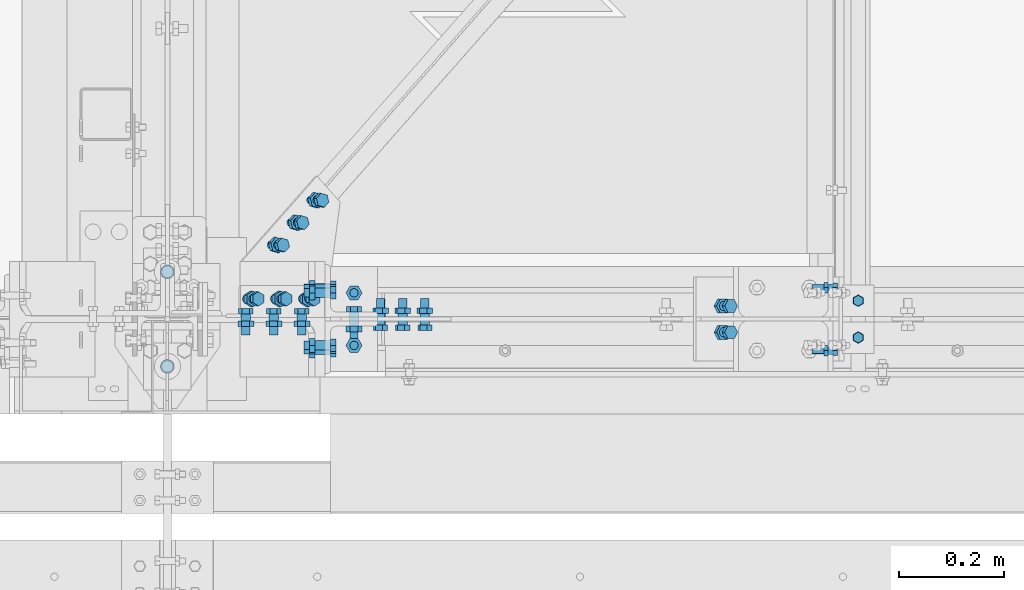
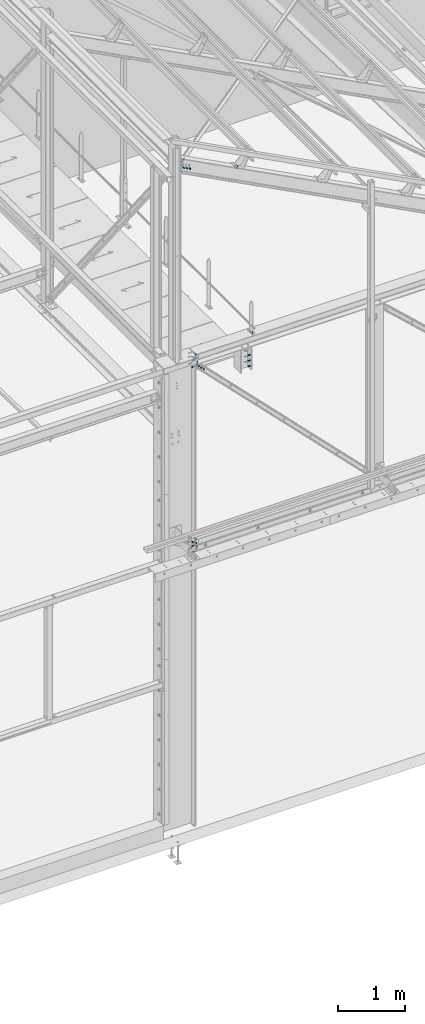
# One storey, part 146 of 362: 18 mechanical fasteners.
"""IFC2X3 building model written with IfcOpenShell, lengths in millimetres."""

from ifc_helpers import new_model, si_unit, frame, origin_with_axes, origin_2d_with_axis, place, context, subcontext, project, spatial, polyline, circle, outline, extrude, source, transform, mapped, material, type_object, element, save


model = new_model("IFC2X3")

# Units and contexts
model_context = context("Model", 3, precision=1e-05, world=origin_with_axes())
body_context = subcontext(model_context, "Body", "Model", "MODEL_VIEW")
ifc_project = project(units=[si_unit("LENGTHUNIT", "METRE", prefix="MILLI"), si_unit("AREAUNIT", "SQUARE_METRE"), si_unit("VOLUMEUNIT", "CUBIC_METRE"), si_unit("MASSUNIT", "GRAM", prefix="KILO"), si_unit("TIMEUNIT", "SECOND"), si_unit("PLANEANGLEUNIT", "RADIAN"), si_unit("SOLIDANGLEUNIT", "STERADIAN"), si_unit("THERMODYNAMICTEMPERATUREUNIT", "DEGREE_CELSIUS"), si_unit("LUMINOUSINTENSITYUNIT", "LUMEN")], contexts=[model_context])

# Site, building, storey
site_placement = place(None, origin_with_axes())
site = spatial("IfcSite", under=ifc_project, at=site_placement, Name="Undefined", CompositionType="ELEMENT")
building_placement = place(site_placement, origin_with_axes())
building = spatial("IfcBuilding", under=site, at=building_placement, Name="Undefined", CompositionType="ELEMENT")
storey_placement = place(building_placement, origin_with_axes())
storey = spatial("IfcBuildingStorey", under=building, at=storey_placement, Name="Undefined", CompositionType="ELEMENT", Elevation=0.0)

# Mechanical fasteners
ifc_material_1 = material(Name="#_SB-8.8-ZINGUE")
mechanical_fastener_type = type_object("IfcMechanicalFastenerType", Name="Bolt assembly")
shared_shape_1 = source(origin_with_axes(), body_context, "Body", "SweptSolid", [
    extrude(circle(Radius=9.0, at=origin_2d_with_axis()), frame((0.0, -5.8999542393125, 0.0), z_axis=(0.0, 1.0, 0.0), x_axis=(1.0, 0.0, 0.0)), (0.0, 0.0, 1.0), 6.0),
    extrude(circle(Radius=9.0, at=origin_2d_with_axis()), frame((0.0, -0.100011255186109, 0.0), z_axis=(0.0, 1.0, 0.0), x_axis=(1.0, 0.0, 0.0)), (0.0, 0.0, 1.0), 6.1),
    extrude(outline(polyline([(13.85640646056, 0.0), (6.92820323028, 12.0000000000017), (-6.92820323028, 12.0000000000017), (-13.85640646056, 0.0), (-6.92820323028, -12.0000000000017), (6.92820323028, -12.0000000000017), (13.85640646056, 0.0)])), frame((0.0, -16.5599735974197, 0.0), z_axis=(0.0, 1.0, 0.0), x_axis=(1.0, 0.0, 0.0)), (0.0, 0.0, 1.0), 10.56),
    extrude(circle(Radius=8.0, at=origin_2d_with_axis()), frame((0.0, -5.9999542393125, 0.0), z_axis=(0.0, 1.0, 0.0), x_axis=(1.0, 0.0, 0.0)), (0.0, 0.0, 1.0), 40.0),
    extrude(outline(polyline([(15.3344231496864, 0.0), (7.6672115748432, 13.2800000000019), (-7.6672115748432, 13.2800000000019), (-15.3344231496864, 0.0), (-7.6672115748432, -13.2800000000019), (7.6672115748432, -13.2800000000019), (15.3344231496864, 0.0)])), frame((0.0, 6.0, 0.0), z_axis=(0.0, 1.0, 0.0), x_axis=(1.0, 0.0, 0.0)), (0.0, 0.0, 1.0), 10.56),
])
mechanical_fastener_1_placement = place(storey_placement, frame((12892.7686208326, 140.990496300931, 11959.887126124), z_axis=(-0.628485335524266, 0.704921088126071, 0.328774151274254), x_axis=(0.624617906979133, 0.7092857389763, -0.326750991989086)))
element("IfcMechanicalFastener", 1, at=mechanical_fastener_1_placement, inside=storey, type_object=mechanical_fastener_type, material=ifc_material_1, Name="Bolt assembly", NominalDiameter=16.0, NominalLength=40.0, context=body_context, shape_type="MappedRepresentation", body=[
    mapped(shared_shape_1, transform((0.0, 0.0, 0.0))),
    mapped(shared_shape_1, transform((60.0, 0.0, 0.0))),
    mapped(shared_shape_1, transform((120.0, 0.0, 0.0))),
])
shared_shape_2 = source(origin_with_axes(), body_context, "Body", "SweptSolid", [
    extrude(circle(Radius=9.0, at=origin_2d_with_axis()), frame((0.0, 0.1, 0.0), z_axis=(0.0, 1.0, 0.0), x_axis=(1.0, 0.0, 0.0)), (0.0, 0.0, 1.0), 6.0),
    extrude(circle(Radius=9.0, at=origin_2d_with_axis()), frame((0.0, 5.90002706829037, 0.0), z_axis=(0.0, 1.0, 0.0), x_axis=(1.0, 0.0, 0.0)), (0.0, 0.0, 1.0), 6.1),
    extrude(outline(polyline([(13.85640646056, 0.0), (6.92820323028, 12.0000000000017), (-6.92820323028, 12.0000000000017), (-13.85640646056, 0.0), (-6.92820323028, -12.0000000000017), (6.92820323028, -12.0000000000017), (13.85640646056, 0.0)])), frame((0.0, -10.5600019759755, 0.0), z_axis=(0.0, 1.0, 0.0), x_axis=(1.0, 0.0, 0.0)), (0.0, 0.0, 1.0), 10.56),
    extrude(circle(Radius=8.0, at=origin_2d_with_axis()), frame((0.0, 0.0, 0.0), z_axis=(0.0, 1.0, 0.0), x_axis=(1.0, 0.0, 0.0)), (0.0, 0.0, 1.0), 40.0),
    extrude(outline(polyline([(15.3344231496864, 0.0), (7.6672115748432, 13.2800000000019), (-7.6672115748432, 13.2800000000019), (-15.3344231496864, 0.0), (-7.6672115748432, -13.2800000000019), (7.6672115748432, -13.2800000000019), (15.3344231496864, 0.0)])), frame((0.0, 12.0000270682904, 0.0), z_axis=(0.0, 1.0, 0.0), x_axis=(1.0, 0.0, 0.0)), (0.0, 0.0, 1.0), 10.56),
])
mechanical_fastener_2_placement = place(storey_placement, frame((12901.5227529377, 38.4999009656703, 11955.3076525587), z_axis=(0.886081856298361, 3.500000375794e-08, -0.463528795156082), x_axis=(0.0, -1.0, 0.0)))
element("IfcMechanicalFastener", 2, at=mechanical_fastener_2_placement, inside=storey, type_object=mechanical_fastener_type, material=ifc_material_1, Name="Bolt assembly", NominalDiameter=16.0, NominalLength=40.0, context=body_context, shape_type="MappedRepresentation", body=[
    mapped(shared_shape_2, transform((0.0, 0.0, -60.0))),
    mapped(shared_shape_2, transform((0.0, 0.0, 0.0))),
    mapped(shared_shape_2, transform((0.0, 0.0, 60.0))),
])
ifc_material_2 = material(Name="8.8-SB-ZINGUE")
shared_shape_3 = source(origin_with_axes(), body_context, "Body", "SweptSolid", [
    extrude(circle(Radius=9.0, at=origin_2d_with_axis()), frame((0.0, -10.9000000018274, 0.0), z_axis=(0.0, 1.0, 0.0), x_axis=(1.0, 0.0, 0.0)), (0.0, 0.0, 1.0), 6.0),
    extrude(circle(Radius=9.0, at=origin_2d_with_axis()), frame((0.0, 4.9000000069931, 0.0), z_axis=(0.0, 1.0, 0.0), x_axis=(1.0, 0.0, 0.0)), (0.0, 0.0, 1.0), 6.1),
    extrude(circle(Radius=9.0, at=origin_2d_with_axis()), frame((0.0, -3.99999923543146, 0.0), z_axis=(0.0, 1.0, 0.0), x_axis=(1.0, 0.0, 0.0)), (0.0, 0.0, 1.0), 8.0),
    extrude(outline(polyline([(13.85640646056, 0.0), (6.92820323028, 12.0000000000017), (-6.92820323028, 12.0000000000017), (-13.85640646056, 0.0), (-6.92820323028, -12.0000000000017), (6.92820323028, -12.0000000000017), (13.85640646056, 0.0)])), frame((0.0, -21.5600000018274, 0.0), z_axis=(0.0, 1.0, 0.0), x_axis=(1.0, 0.0, 0.0)), (0.0, 0.0, 1.0), 10.56),
    extrude(circle(Radius=8.0, at=origin_2d_with_axis()), frame((0.0, -11.0000000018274, 0.0), z_axis=(0.0, 1.0, 0.0), x_axis=(1.0, 0.0, 0.0)), (0.0, 0.0, 1.0), 50.0),
    extrude(outline(polyline([(15.3344231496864, 0.0), (7.6672115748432, 13.2800000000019), (-7.6672115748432, 13.2800000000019), (-15.3344231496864, 0.0), (-7.6672115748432, -13.2800000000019), (7.6672115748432, -13.2800000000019), (15.3344231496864, 0.0)])), frame((0.0, 11.0000000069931, 0.0), z_axis=(0.0, 1.0, 0.0), x_axis=(1.0, 0.0, 0.0)), (0.0, 0.0, 1.0), 10.56),
])
mechanical_fastener_3_placement = place(storey_placement, frame((13085.4692799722, 0.0, 8253.34153187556), z_axis=(0.711050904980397, 0.0, 0.703140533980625), x_axis=(0.703140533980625, 0.0, -0.711050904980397)))
element("IfcMechanicalFastener", 3, at=mechanical_fastener_3_placement, inside=storey, type_object=mechanical_fastener_type, material=ifc_material_2, Name="Bolt assembly", NominalDiameter=16.0, NominalLength=50.0, context=body_context, shape_type="MappedRepresentation", body=[
    mapped(shared_shape_3, transform((0.0, 0.0, 0.0))),
    mapped(shared_shape_3, transform((60.0, 0.0, 0.0))),
    mapped(shared_shape_3, transform((120.0, 0.0, 0.0))),
])
shared_shape_4 = source(origin_with_axes(), body_context, "Body", "SweptSolid", [
    extrude(circle(Radius=7.0, at=origin_2d_with_axis()), frame((0.0, -0.0952411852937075, 0.0), z_axis=(0.0, 1.0, 0.0), x_axis=(1.0, 0.0, 0.0)), (0.0, 0.0, 1.0), 10.1),
    extrude(circle(Radius=7.0, at=origin_2d_with_axis()), frame((0.0, -9.9, 0.0), z_axis=(0.0, 1.0, 0.0), x_axis=(1.0, 0.0, 0.0)), (0.0, 0.0, 1.0), 10.0),
    extrude(outline(polyline([(10.39230484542, 0.0), (5.19615242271, 9.00000000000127), (-5.19615242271, 9.00000000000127), (-10.39230484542, 0.0), (-5.19615242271, -9.00000000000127), (5.19615242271, -9.00000000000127), (10.39230484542, 0.0)])), frame((0.0, -17.92, 0.0), z_axis=(0.0, 1.0, 0.0), x_axis=(1.0, 0.0, 0.0)), (0.0, 0.0, 1.0), 7.92),
    extrude(circle(Radius=6.0, at=origin_2d_with_axis()), frame((0.0, -10.0000010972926, 0.0), z_axis=(0.0, 1.0, 0.0), x_axis=(1.0, 0.0, 0.0)), (0.0, 0.0, 1.0), 40.0),
    extrude(outline(polyline([(11.5008173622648, 0.0), (5.7504086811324, 9.96000000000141), (-5.7504086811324, 9.96000000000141), (-11.5008173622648, 0.0), (-5.7504086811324, -9.96000000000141), (5.7504086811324, -9.96000000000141), (11.5008173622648, 0.0)])), frame((0.0, 10.0047588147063, 0.0), z_axis=(0.0, 1.0, 0.0), x_axis=(1.0, 0.0, 0.0)), (0.0, 0.0, 1.0), 7.92),
])
mechanical_fastener_4_placement = place(storey_placement, frame((13993.9998835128, -34.9999999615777, 8550.00000643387), z_axis=(-1.0, 0.0, 0.0), x_axis=(0.0, 1.0, 0.0)))
element("IfcMechanicalFastener", 4, at=mechanical_fastener_4_placement, inside=storey, type_object=mechanical_fastener_type, material=ifc_material_2, Name="Bolt assembly", NominalDiameter=12.0, NominalLength=40.0, context=body_context, shape_type="MappedRepresentation", body=[
    mapped(shared_shape_4, transform((0.0, 0.0, 0.0))),
    mapped(shared_shape_4, transform((70.0, -2.91038304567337e-11, 2.18278728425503e-10))),
])
shared_shape_5 = source(origin_with_axes(), body_context, "Body", "SweptSolid", [
    extrude(circle(Radius=7.0, at=origin_2d_with_axis()), frame((0.0, 0.0, 0.0), z_axis=(0.0, 1.0, 0.0), x_axis=(1.0, 0.0, 0.0)), (0.0, 0.0, 1.0), 10.1),
    extrude(outline(polyline([(10.39230484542, 0.0), (5.19615242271, 9.00000000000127), (-5.19615242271, 9.00000000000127), (-10.39230484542, 0.0), (-5.19615242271, -9.00000000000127), (5.19615242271, -9.00000000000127), (10.39230484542, 0.0)])), frame((0.0, -7.91999999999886, 0.0), z_axis=(0.0, 1.0, 0.0), x_axis=(1.0, 0.0, 0.0)), (0.0, 0.0, 1.0), 7.92),
    extrude(circle(Radius=6.0, at=origin_2d_with_axis()), frame((0.0, 0.0, 0.0), z_axis=(0.0, 1.0, 0.0), x_axis=(1.0, 0.0, 0.0)), (0.0, 0.0, 1.0), 40.0),
    extrude(outline(polyline([(11.5008173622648, 0.0), (5.7504086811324, 9.96000000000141), (-5.7504086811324, 9.96000000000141), (-11.5008173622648, 0.0), (-5.7504086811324, -9.96000000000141), (5.7504086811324, -9.96000000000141), (11.5008173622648, 0.0)])), frame((0.0, 10.0000000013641, 0.0), z_axis=(0.0, 1.0, 0.0), x_axis=(1.0, 0.0, 0.0)), (0.0, 0.0, 1.0), 7.92),
])
mechanical_fastener_5_placement = place(storey_placement, frame((13946.4999009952, 1.14539943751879e-07, 7990.00000000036), z_axis=(0.0, -1.0, 0.0), x_axis=(0.0, 0.0, 1.0)))
element("IfcMechanicalFastener", 5, at=mechanical_fastener_5_placement, inside=storey, type_object=mechanical_fastener_type, material=ifc_material_2, Name="Bolt assembly", NominalDiameter=12.0, NominalLength=40.0, context=body_context, shape_type="MappedRepresentation", body=[
    mapped(shared_shape_5, transform((0.0, 0.0, -60.0))),
    mapped(shared_shape_5, transform((99.9999999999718, 0.0, -60.0000000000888))),
    mapped(shared_shape_5, transform((199.999999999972, 0.0, -60.0000000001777))),
    mapped(shared_shape_5, transform((0.0, 0.0, 60.0))),
    mapped(shared_shape_5, transform((100.000000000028, 0.0, 59.9999999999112))),
    mapped(shared_shape_5, transform((200.000000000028, 0.0, 59.9999999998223))),
])
shared_shape_6 = source(origin_with_axes(), body_context, "Body", "SweptSolid", [
    extrude(circle(Radius=9.0, at=origin_2d_with_axis()), frame((0.0, -0.10007666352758, 0.0), z_axis=(0.0, 1.0, 0.0), x_axis=(1.0, 0.0, 0.0)), (0.0, 0.0, 1.0), 9.9),
    extrude(circle(Radius=9.0, at=origin_2d_with_axis()), frame((0.0, -9.9, 0.0), z_axis=(0.0, 1.0, 0.0), x_axis=(1.0, 0.0, 0.0)), (0.0, 0.0, 1.0), 10.0),
    extrude(outline(polyline([(13.85640646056, 0.0), (6.92820323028, 12.0000000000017), (-6.92820323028, 12.0000000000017), (-13.85640646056, 0.0), (-6.92820323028, -12.0000000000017), (6.92820323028, -12.0000000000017), (13.85640646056, 0.0)])), frame((0.0, -20.5600000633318, 0.0), z_axis=(0.0, 1.0, 0.0), x_axis=(1.0, 0.0, 0.0)), (0.0, 0.0, 1.0), 10.56),
    extrude(circle(Radius=8.0, at=origin_2d_with_axis()), frame((0.0, -10.0000010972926, 0.0), z_axis=(0.0, 1.0, 0.0), x_axis=(1.0, 0.0, 0.0)), (0.0, 0.0, 1.0), 40.0),
    extrude(outline(polyline([(15.3344231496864, 0.0), (7.6672115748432, 13.2800000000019), (-7.6672115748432, 13.2800000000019), (-15.3344231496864, 0.0), (-7.6672115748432, -13.2800000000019), (7.6672115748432, -13.2800000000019), (15.3344231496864, 0.0)])), frame((0.0, 9.7999015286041, 0.0), z_axis=(0.0, 1.0, 0.0), x_axis=(1.0, 0.0, 0.0)), (0.0, 0.0, 1.0), 10.56),
])
mechanical_fastener_6_placement = place(storey_placement, frame((13742.7711979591, 3.75141407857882e-05, 11650.6600426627), z_axis=(0.0, 1.0, 0.0), x_axis=(0.886081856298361, 3.500000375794e-08, -0.463528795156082)))
element("IfcMechanicalFastener", 6, at=mechanical_fastener_6_placement, inside=storey, type_object=mechanical_fastener_type, material=ifc_material_2, Name="Bolt assembly", NominalDiameter=16.0, NominalLength=40.0, context=body_context, shape_type="MappedRepresentation", body=[
    mapped(shared_shape_6, transform((0.0, 0.0, -25.0))),
    mapped(shared_shape_6, transform((0.0, 0.0, 25.0))),
])
shared_shape_7 = source(origin_with_axes(), body_context, "Body", "SweptSolid", [
    extrude(circle(Radius=9.0, at=origin_2d_with_axis()), frame((0.0, -3.19995229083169, 0.0), z_axis=(0.0, 1.0, 0.0), x_axis=(1.0, 0.0, 0.0)), (0.0, 0.0, 1.0), 6.3),
    extrude(circle(Radius=9.0, at=origin_2d_with_axis()), frame((0.0, -9.39989811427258, 0.0), z_axis=(0.0, 1.0, 0.0), x_axis=(1.0, 0.0, 0.0)), (0.0, 0.0, 1.0), 6.0),
    extrude(outline(polyline([(13.85640646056, 0.0), (6.92820323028, 12.0000000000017), (-6.92820323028, 12.0000000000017), (-13.85640646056, 0.0), (-6.92820323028, -12.0000000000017), (6.92820323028, -12.0000000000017), (13.85640646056, 0.0)])), frame((0.0, -20.0598981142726, 0.0), z_axis=(0.0, 1.0, 0.0), x_axis=(1.0, 0.0, 0.0)), (0.0, 0.0, 1.0), 10.56),
    extrude(circle(Radius=8.0, at=origin_2d_with_axis()), frame((0.0, -9.49989811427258, 0.0), z_axis=(0.0, 1.0, 0.0), x_axis=(1.0, 0.0, 0.0)), (0.0, 0.0, 1.0), 40.0),
    extrude(outline(polyline([(15.3344231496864, 0.0), (7.6672115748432, 13.2800000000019), (-7.6672115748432, 13.2800000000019), (-15.3344231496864, 0.0), (-7.6672115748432, -13.2800000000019), (7.6672115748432, -13.2800000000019), (15.3344231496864, 0.0)])), frame((0.0, 3.10004751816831, 0.0), z_axis=(0.0, 1.0, 0.0), x_axis=(1.0, 0.0, 0.0)), (0.0, 0.0, 1.0), 10.56),
])
mechanical_fastener_7_placement = place(storey_placement, frame((12882.5180572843, 1.56624618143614e-07, 11918.9782669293), z_axis=(0.886081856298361, 3.500000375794e-08, -0.463528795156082), x_axis=(0.463528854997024, 6.99999093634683e-09, 0.886081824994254)))
element("IfcMechanicalFastener", 7, at=mechanical_fastener_7_placement, inside=storey, type_object=mechanical_fastener_type, material=ifc_material_1, Name="Bolt assembly", NominalDiameter=16.0, NominalLength=40.0, context=body_context, shape_type="MappedRepresentation", body=[
    mapped(shared_shape_7, transform((0.0, 0.0, -60.0))),
    mapped(shared_shape_7, transform((0.0, 0.0, 0.0))),
    mapped(shared_shape_7, transform((0.0, 0.0, 60.0))),
])
shared_shape_8 = source(origin_with_axes(), body_context, "Body", "SweptSolid", [
    extrude(circle(Radius=9.0, at=origin_2d_with_axis()), frame((0.0, -3.25000000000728, 0.0), z_axis=(0.0, 1.0, 0.0), x_axis=(1.0, 0.0, 0.0)), (0.0, 0.0, 1.0), 6.5),
    extrude(circle(Radius=9.0, at=origin_2d_with_axis()), frame((0.0, 3.40000111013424, 0.0), z_axis=(0.0, 1.0, 0.0), x_axis=(1.0, 0.0, 0.0)), (0.0, 0.0, 1.0), 10.1),
    extrude(circle(Radius=9.0, at=origin_2d_with_axis()), frame((0.0, -13.4000000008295, 0.0), z_axis=(0.0, 1.0, 0.0), x_axis=(1.0, 0.0, 0.0)), (0.0, 0.0, 1.0), 10.0),
    extrude(outline(polyline([(13.85640646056, 0.0), (6.92820323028, 12.0000000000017), (-6.92820323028, 12.0000000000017), (-13.85640646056, 0.0), (-6.92820323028, -12.0000000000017), (6.92820323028, -12.0000000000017), (13.85640646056, 0.0)])), frame((0.0, -24.0600000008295, 0.0), z_axis=(0.0, 1.0, 0.0), x_axis=(1.0, 0.0, 0.0)), (0.0, 0.0, 1.0), 10.56),
    extrude(circle(Radius=8.0, at=origin_2d_with_axis()), frame((0.0, -13.4999650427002, 0.0), z_axis=(0.0, 1.0, 0.0), x_axis=(1.0, 0.0, 0.0)), (0.0, 0.0, 1.0), 50.0),
    extrude(outline(polyline([(15.3344231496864, 0.0), (7.6672115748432, 13.2800000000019), (-7.6672115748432, 13.2800000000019), (-15.3344231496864, 0.0), (-7.6672115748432, -13.2800000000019), (7.6672115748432, -13.2800000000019), (15.3344231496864, 0.0)])), frame((0.0, 13.4999999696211, 0.0), z_axis=(0.0, 1.0, 0.0), x_axis=(1.0, 0.0, 0.0)), (0.0, 0.0, 1.0), 10.56),
])
for number, where, z_axis, x_axis, name in (
    (8, (13034.9974408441, 0.0, 8455.00002181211), (0.0, 0.0, 1.0), (-1.0, 0.0, 0.0), "Bolt assembly"),
    (9, (13034.9974408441, 0.0, 5095.00085367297), (0.0, 0.0, 1.0), (-1.0, 0.0, 0.0), "Bolt assembly"),
):
    element("IfcMechanicalFastener", number, at=place(storey_placement, frame(where, z_axis=z_axis, x_axis=x_axis)), inside=storey, type_object=mechanical_fastener_type, material=ifc_material_2, Name=name, NominalDiameter=16.0, NominalLength=50.0, context=body_context, shape_type="MappedRepresentation", body=[
        mapped(shared_shape_8, transform((0.0, 0.0, 35.0))),
        mapped(shared_shape_8, transform((0.0, 0.0, -35.0))),
    ])
shared_shape_9 = source(origin_with_axes(), body_context, "Body", "SweptSolid", [
    extrude(circle(Radius=9.0, at=origin_2d_with_axis()), frame((0.0, -0.0991422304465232, 0.0), z_axis=(0.0, 1.0, 0.0), x_axis=(1.0, 0.0, 0.0)), (0.0, 0.0, 1.0), 10.1),
    extrude(circle(Radius=9.0, at=origin_2d_with_axis()), frame((0.0, -9.9, 0.0), z_axis=(0.0, 1.0, 0.0), x_axis=(1.0, 0.0, 0.0)), (0.0, 0.0, 1.0), 10.0),
    extrude(outline(polyline([(13.85640646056, 0.0), (6.92820323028, 12.0000000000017), (-6.92820323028, 12.0000000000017), (-13.85640646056, 0.0), (-6.92820323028, -12.0000000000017), (6.92820323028, -12.0000000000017), (13.85640646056, 0.0)])), frame((0.0, -20.5600000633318, 0.0), z_axis=(0.0, 1.0, 0.0), x_axis=(1.0, 0.0, 0.0)), (0.0, 0.0, 1.0), 10.56),
    extrude(circle(Radius=8.0, at=origin_2d_with_axis()), frame((0.0, -10.0000010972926, 0.0), z_axis=(0.0, 1.0, 0.0), x_axis=(1.0, 0.0, 0.0)), (0.0, 0.0, 1.0), 40.0),
    extrude(outline(polyline([(15.3344231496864, 0.0), (7.6672115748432, 13.2800000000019), (-7.6672115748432, 13.2800000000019), (-15.3344231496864, 0.0), (-7.6672115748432, -13.2800000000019), (7.6672115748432, -13.2800000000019), (15.3344231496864, 0.0)])), frame((0.0, 10.0008577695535, 0.0), z_axis=(0.0, 1.0, 0.0), x_axis=(1.0, 0.0, 0.0)), (0.0, 0.0, 1.0), 10.56),
])
mechanical_fastener_8_placement = place(storey_placement, frame((13034.998200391, 1.44914916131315e-06, 4999.99999939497), z_axis=(0.0, 1.0, 0.0), x_axis=(-1.0, 0.0, 0.0)))
element("IfcMechanicalFastener", 10, at=mechanical_fastener_8_placement, inside=storey, type_object=mechanical_fastener_type, material=ifc_material_2, Name="Bolt assembly", NominalDiameter=16.0, NominalLength=40.0, context=body_context, shape_type="MappedRepresentation", body=[
    mapped(shared_shape_9, transform((0.0, 0.0, -50.0))),
    mapped(shared_shape_9, transform((0.0, 0.0, 50.0))),
])
shared_shape_10 = source(origin_with_axes(), body_context, "Body", "SweptSolid", [
    extrude(circle(Radius=9.0, at=origin_2d_with_axis()), frame((0.0, -0.103867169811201, 0.0), z_axis=(0.0, 1.0, 0.0), x_axis=(1.0, 0.0, 0.0)), (0.0, 0.0, 1.0), 10.1),
    extrude(circle(Radius=9.0, at=origin_2d_with_axis()), frame((0.0, -9.9, 0.0), z_axis=(0.0, 1.0, 0.0), x_axis=(1.0, 0.0, 0.0)), (0.0, 0.0, 1.0), 10.0),
    extrude(outline(polyline([(13.85640646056, 0.0), (6.92820323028, 12.0000000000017), (-6.92820323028, 12.0000000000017), (-13.85640646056, 0.0), (-6.92820323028, -12.0000000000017), (6.92820323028, -12.0000000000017), (13.85640646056, 0.0)])), frame((0.0, -20.5600000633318, 0.0), z_axis=(0.0, 1.0, 0.0), x_axis=(1.0, 0.0, 0.0)), (0.0, 0.0, 1.0), 10.56),
    extrude(circle(Radius=8.0, at=origin_2d_with_axis()), frame((0.0, -10.0000010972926, 0.0), z_axis=(0.0, 1.0, 0.0), x_axis=(1.0, 0.0, 0.0)), (0.0, 0.0, 1.0), 40.0),
    extrude(outline(polyline([(15.3344231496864, 0.0), (7.6672115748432, 13.2800000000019), (-7.6672115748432, 13.2800000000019), (-15.3344231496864, 0.0), (-7.6672115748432, -13.2800000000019), (7.6672115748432, -13.2800000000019), (15.3344231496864, 0.0)])), frame((0.0, 9.9961328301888, 0.0), z_axis=(0.0, 1.0, 0.0), x_axis=(1.0, 0.0, 0.0)), (0.0, 0.0, 1.0), 10.56),
])
mechanical_fastener_9_placement = place(storey_placement, frame((13034.998200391, 1.48271375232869e-06, 8359.99916753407), z_axis=(0.0, 1.0, 0.0), x_axis=(-1.0, 0.0, 0.0)))
element("IfcMechanicalFastener", 11, at=mechanical_fastener_9_placement, inside=storey, type_object=mechanical_fastener_type, material=ifc_material_2, Name="Bolt assembly", NominalDiameter=16.0, NominalLength=40.0, context=body_context, shape_type="MappedRepresentation", body=[
    mapped(shared_shape_10, transform((0.0, 0.0, -50.0))),
    mapped(shared_shape_10, transform((0.0, 0.0, 50.0))),
])
shared_shape_11 = source(origin_with_axes(), body_context, "Body", "SweptSolid", [
    extrude(circle(Radius=9.0, at=origin_2d_with_axis()), frame((0.0, -0.063417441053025, 0.0), z_axis=(0.0, 1.0, 0.0), x_axis=(1.0, 0.0, 0.0)), (0.0, 0.0, 1.0), 19.1),
    extrude(circle(Radius=9.0, at=origin_2d_with_axis()), frame((0.0, -9.86087332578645, 0.0), z_axis=(0.0, 1.0, 0.0), x_axis=(1.0, 0.0, 0.0)), (0.0, 0.0, 1.0), 10.0),
    extrude(outline(polyline([(13.85640646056, 0.0), (6.92820323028, 12.0000000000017), (-6.92820323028, 12.0000000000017), (-13.85640646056, 0.0), (-6.92820323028, -12.0000000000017), (6.92820323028, -12.0000000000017), (13.85640646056, 0.0)])), frame((0.0, -20.5208733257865, 0.0), z_axis=(0.0, 1.0, 0.0), x_axis=(1.0, 0.0, 0.0)), (0.0, 0.0, 1.0), 10.56),
    extrude(circle(Radius=8.0, at=origin_2d_with_axis()), frame((0.0, -9.96087332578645, 0.0), z_axis=(0.0, 1.0, 0.0), x_axis=(1.0, 0.0, 0.0)), (0.0, 0.0, 1.0), 50.0),
    extrude(outline(polyline([(15.3344231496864, 0.0), (7.6672115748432, 13.2800000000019), (-7.6672115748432, 13.2800000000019), (-15.3344231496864, 0.0), (-7.6672115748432, -13.2800000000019), (7.6672115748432, -13.2800000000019), (15.3344231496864, 0.0)])), frame((0.0, 19.036583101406, 0.0), z_axis=(0.0, 1.0, 0.0), x_axis=(1.0, 0.0, 0.0)), (0.0, 0.0, 1.0), 10.56),
])
mechanical_fastener_10_placement = place(storey_placement, frame((12980.0365697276, 58.5000012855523, 8455.00002483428), z_axis=(0.0, 0.0, -1.0), x_axis=(-0.00023895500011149, -0.999999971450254, 0.0)))
element("IfcMechanicalFastener", 12, at=mechanical_fastener_10_placement, inside=storey, type_object=mechanical_fastener_type, material=ifc_material_2, Name="Bolt assembly", NominalDiameter=16.0, NominalLength=50.0, context=body_context, shape_type="MappedRepresentation", body=[
    mapped(shared_shape_11, transform((0.0, 0.0, -35.0))),
    mapped(shared_shape_11, transform((0.0, 0.0, 35.0))),
])
shared_shape_12 = source(origin_with_axes(), body_context, "Body", "SweptSolid", [
    extrude(circle(Radius=9.0, at=origin_2d_with_axis()), frame((0.0, -0.0917710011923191, 0.0), z_axis=(0.0, 1.0, 0.0), x_axis=(1.0, 0.0, 0.0)), (0.0, 0.0, 1.0), 19.1),
    extrude(circle(Radius=9.0, at=origin_2d_with_axis()), frame((0.0, -9.8892433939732, 0.0), z_axis=(0.0, 1.0, 0.0), x_axis=(1.0, 0.0, 0.0)), (0.0, 0.0, 1.0), 10.0),
    extrude(outline(polyline([(13.85640646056, 0.0), (6.92820323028, 12.0000000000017), (-6.92820323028, 12.0000000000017), (-13.85640646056, 0.0), (-6.92820323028, -12.0000000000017), (6.92820323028, -12.0000000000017), (13.85640646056, 0.0)])), frame((0.0, -20.5492433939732, 0.0), z_axis=(0.0, 1.0, 0.0), x_axis=(1.0, 0.0, 0.0)), (0.0, 0.0, 1.0), 10.56),
    extrude(circle(Radius=8.0, at=origin_2d_with_axis()), frame((0.0, -9.9892433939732, 0.0), z_axis=(0.0, 1.0, 0.0), x_axis=(1.0, 0.0, 0.0)), (0.0, 0.0, 1.0), 50.0),
    extrude(outline(polyline([(15.3344231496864, 0.0), (7.6672115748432, 13.2800000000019), (-7.6672115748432, 13.2800000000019), (-15.3344231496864, 0.0), (-7.6672115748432, -13.2800000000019), (7.6672115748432, -13.2800000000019), (15.3344231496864, 0.0)])), frame((0.0, 19.0082319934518, 0.0), z_axis=(0.0, 1.0, 0.0), x_axis=(1.0, 0.0, 0.0)), (0.0, 0.0, 1.0), 10.56),
])
mechanical_fastener_11_placement = place(storey_placement, frame((12980.0081957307, -58.5000012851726, 8455.00002483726), z_axis=(0.0, 0.0, 1.0), x_axis=(0.000238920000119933, 0.999999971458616, 0.0)))
element("IfcMechanicalFastener", 13, at=mechanical_fastener_11_placement, inside=storey, type_object=mechanical_fastener_type, material=ifc_material_2, Name="Bolt assembly", NominalDiameter=16.0, NominalLength=50.0, context=body_context, shape_type="MappedRepresentation", body=[
    mapped(shared_shape_12, transform((0.0, 0.0, -35.0))),
    mapped(shared_shape_12, transform((0.0, 0.0, 35.0))),
])
shared_shape_13 = source(origin_with_axes(), body_context, "Body", "SweptSolid", [
    extrude(circle(Radius=9.0, at=origin_2d_with_axis()), frame((0.0, -0.104470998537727, 0.0), z_axis=(0.0, 1.0, 0.0), x_axis=(1.0, 0.0, 0.0)), (0.0, 0.0, 1.0), 19.1),
    extrude(circle(Radius=9.0, at=origin_2d_with_axis()), frame((0.0, -9.90351884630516, 0.0), z_axis=(0.0, 1.0, 0.0), x_axis=(1.0, 0.0, 0.0)), (0.0, 0.0, 1.0), 10.0),
    extrude(outline(polyline([(13.85640646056, 0.0), (6.92820323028, 12.0000000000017), (-6.92820323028, 12.0000000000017), (-13.85640646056, 0.0), (-6.92820323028, -12.0000000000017), (6.92820323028, -12.0000000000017), (13.85640646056, 0.0)])), frame((0.0, -20.5635188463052, 0.0), z_axis=(0.0, 1.0, 0.0), x_axis=(1.0, 0.0, 0.0)), (0.0, 0.0, 1.0), 10.56),
    extrude(circle(Radius=8.0, at=origin_2d_with_axis()), frame((0.0, -10.0035188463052, 0.0), z_axis=(0.0, 1.0, 0.0), x_axis=(1.0, 0.0, 0.0)), (0.0, 0.0, 1.0), 50.0),
    extrude(outline(polyline([(15.3344231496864, 0.0), (7.6672115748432, 13.2800000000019), (-7.6672115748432, 13.2800000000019), (-15.3344231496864, 0.0), (-7.6672115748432, -13.2800000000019), (7.6672115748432, -13.2800000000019), (15.3344231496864, 0.0)])), frame((0.0, 18.9955194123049, 0.0), z_axis=(0.0, 1.0, 0.0), x_axis=(1.0, 0.0, 0.0)), (0.0, 0.0, 1.0), 10.56),
])
mechanical_fastener_12_placement = place(storey_placement, frame((12979.9954460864, -1.36462691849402e-07, 8304.99916813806), z_axis=(0.0, -1.0, 0.0), x_axis=(6.74699999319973e-06, -1.99999999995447e-09, 0.999999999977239)))
element("IfcMechanicalFastener", 14, at=mechanical_fastener_12_placement, inside=storey, type_object=mechanical_fastener_type, material=ifc_material_2, Name="Bolt assembly", NominalDiameter=16.0, NominalLength=50.0, context=body_context, shape_type="MappedRepresentation", body=[
    mapped(shared_shape_13, transform((0.0, 0.0, -50.0))),
    mapped(shared_shape_13, transform((0.0, 0.0, 50.0))),
])
shared_shape_14 = source(origin_with_axes(), body_context, "Body", "SweptSolid", [
    extrude(circle(Radius=9.0, at=origin_2d_with_axis()), frame((0.0, -0.0897576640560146, 0.0), z_axis=(0.0, 1.0, 0.0), x_axis=(1.0, 0.0, 0.0)), (0.0, 0.0, 1.0), 19.1),
    extrude(circle(Radius=9.0, at=origin_2d_with_axis()), frame((0.0, -9.88833050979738, 0.0), z_axis=(0.0, 1.0, 0.0), x_axis=(1.0, 0.0, 0.0)), (0.0, 0.0, 1.0), 10.0),
    extrude(outline(polyline([(13.85640646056, 0.0), (6.92820323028, 12.0000000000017), (-6.92820323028, 12.0000000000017), (-13.85640646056, 0.0), (-6.92820323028, -12.0000000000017), (6.92820323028, -12.0000000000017), (13.85640646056, 0.0)])), frame((0.0, -20.5483104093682, 0.0), z_axis=(0.0, 1.0, 0.0), x_axis=(1.0, 0.0, 0.0)), (0.0, 0.0, 1.0), 10.56),
    extrude(circle(Radius=8.0, at=origin_2d_with_axis()), frame((0.0, -9.98833050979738, 0.0), z_axis=(0.0, 1.0, 0.0), x_axis=(1.0, 0.0, 0.0)), (0.0, 0.0, 1.0), 50.0),
    extrude(outline(polyline([(15.3344231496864, 0.0), (7.6672115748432, 13.2800000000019), (-7.6672115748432, 13.2800000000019), (-15.3344231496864, 0.0), (-7.6672115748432, -13.2800000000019), (7.6672115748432, -13.2800000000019), (15.3344231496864, 0.0)])), frame((0.0, 19.010242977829, 0.0), z_axis=(0.0, 1.0, 0.0), x_axis=(1.0, 0.0, 0.0)), (0.0, 0.0, 1.0), 10.56),
])
mechanical_fastener_13_placement = place(storey_placement, frame((12980.0091307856, 58.5000015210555, 5095.00085669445), z_axis=(0.0, 0.0, -1.0), x_axis=(0.000259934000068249, -0.999999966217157, 0.0)))
element("IfcMechanicalFastener", 15, at=mechanical_fastener_13_placement, inside=storey, type_object=mechanical_fastener_type, material=ifc_material_2, Name="Bolt assembly", NominalDiameter=16.0, NominalLength=50.0, context=body_context, shape_type="MappedRepresentation", body=[
    mapped(shared_shape_14, transform((0.0, 0.0, -35.0))),
    mapped(shared_shape_14, transform((0.0, 0.0, 35.0))),
])
shared_shape_15 = source(origin_with_axes(), body_context, "Body", "SweptSolid", [
    extrude(circle(Radius=9.0, at=origin_2d_with_axis()), frame((0.0, -0.0906678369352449, 0.0), z_axis=(0.0, 1.0, 0.0), x_axis=(1.0, 0.0, 0.0)), (0.0, 0.0, 1.0), 19.1),
    extrude(circle(Radius=9.0, at=origin_2d_with_axis()), frame((0.0, -9.8892433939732, 0.0), z_axis=(0.0, 1.0, 0.0), x_axis=(1.0, 0.0, 0.0)), (0.0, 0.0, 1.0), 10.0),
    extrude(outline(polyline([(13.85640646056, 0.0), (6.92820323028, 12.0000000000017), (-6.92820323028, 12.0000000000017), (-13.85640646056, 0.0), (-6.92820323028, -12.0000000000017), (6.92820323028, -12.0000000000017), (13.85640646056, 0.0)])), frame((0.0, -20.5492433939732, 0.0), z_axis=(0.0, 1.0, 0.0), x_axis=(1.0, 0.0, 0.0)), (0.0, 0.0, 1.0), 10.56),
    extrude(circle(Radius=8.0, at=origin_2d_with_axis()), frame((0.0, -9.9892433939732, 0.0), z_axis=(0.0, 1.0, 0.0), x_axis=(1.0, 0.0, 0.0)), (0.0, 0.0, 1.0), 50.0),
    extrude(outline(polyline([(15.3344231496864, 0.0), (7.6672115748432, 13.2800000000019), (-7.6672115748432, 13.2800000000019), (-15.3344231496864, 0.0), (-7.6672115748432, -13.2800000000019), (7.6672115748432, -13.2800000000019), (15.3344231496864, 0.0)])), frame((0.0, 19.0093327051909, 0.0), z_axis=(0.0, 1.0, 0.0), x_axis=(1.0, 0.0, 0.0)), (0.0, 0.0, 1.0), 10.56),
])
mechanical_fastener_14_placement = place(storey_placement, frame((12980.0081977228, -58.5000012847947, 5095.00085669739), z_axis=(0.0, 0.0, 1.0), x_axis=(0.000238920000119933, 0.999999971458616, 0.0)))
element("IfcMechanicalFastener", 16, at=mechanical_fastener_14_placement, inside=storey, type_object=mechanical_fastener_type, material=ifc_material_2, Name="Bolt assembly", NominalDiameter=16.0, NominalLength=50.0, context=body_context, shape_type="MappedRepresentation", body=[
    mapped(shared_shape_15, transform((0.0, 0.0, -35.0))),
    mapped(shared_shape_15, transform((0.0, 0.0, 35.0))),
])
shared_shape_16 = source(origin_with_axes(), body_context, "Body", "SweptSolid", [
    extrude(circle(Radius=9.0, at=origin_2d_with_axis()), frame((0.0, -0.103381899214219, 0.0), z_axis=(0.0, 1.0, 0.0), x_axis=(1.0, 0.0, 0.0)), (0.0, 0.0, 1.0), 19.1),
    extrude(circle(Radius=9.0, at=origin_2d_with_axis()), frame((0.0, -9.90351884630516, 0.0), z_axis=(0.0, 1.0, 0.0), x_axis=(1.0, 0.0, 0.0)), (0.0, 0.0, 1.0), 10.0),
    extrude(outline(polyline([(13.85640646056, 0.0), (6.92820323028, 12.0000000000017), (-6.92820323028, 12.0000000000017), (-13.85640646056, 0.0), (-6.92820323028, -12.0000000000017), (6.92820323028, -12.0000000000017), (13.85640646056, 0.0)])), frame((0.0, -20.5635188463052, 0.0), z_axis=(0.0, 1.0, 0.0), x_axis=(1.0, 0.0, 0.0)), (0.0, 0.0, 1.0), 10.56),
    extrude(circle(Radius=8.0, at=origin_2d_with_axis()), frame((0.0, -10.0035188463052, 0.0), z_axis=(0.0, 1.0, 0.0), x_axis=(1.0, 0.0, 0.0)), (0.0, 0.0, 1.0), 50.0),
    extrude(outline(polyline([(15.3344231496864, 0.0), (7.6672115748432, 13.2800000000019), (-7.6672115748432, 13.2800000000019), (-15.3344231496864, 0.0), (-7.6672115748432, -13.2800000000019), (7.6672115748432, -13.2800000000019), (15.3344231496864, 0.0)])), frame((0.0, 18.9966181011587, 0.0), z_axis=(0.0, 1.0, 0.0), x_axis=(1.0, 0.0, 0.0)), (0.0, 0.0, 1.0), 10.56),
])
mechanical_fastener_15_placement = place(storey_placement, frame((12979.9954460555, -1.59017017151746e-07, 4944.99999999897), z_axis=(0.0, -1.0, 0.0), x_axis=(6.74699999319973e-06, -1.99999999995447e-09, 0.999999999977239)))
element("IfcMechanicalFastener", 17, at=mechanical_fastener_15_placement, inside=storey, type_object=mechanical_fastener_type, material=ifc_material_2, Name="Bolt assembly", NominalDiameter=16.0, NominalLength=50.0, context=body_context, shape_type="MappedRepresentation", body=[
    mapped(shared_shape_16, transform((0.0, 0.0, -50.0))),
    mapped(shared_shape_16, transform((0.0, 0.0, 50.0))),
])
ifc_material_3 = material(Name="6.8")
shared_shape_17 = source(origin_with_axes(), body_context, "Body", "SweptSolid", [
    extrude(circle(Radius=13.0, at=origin_2d_with_axis()), frame((0.0, 0.0, 0.0), z_axis=(0.0, 1.0, 0.0), x_axis=(1.0, 0.0, 0.0)), (0.0, 0.0, 1.0), 10.1),
])
mechanical_fastener_16_placement = place(storey_placement, frame((12680.0, 7.34107743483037e-08, -200.0), z_axis=(0.0, -1.0, 0.0), x_axis=(-1.0, 0.0, 0.0)))
element("IfcMechanicalFastener", 18, at=mechanical_fastener_16_placement, inside=storey, type_object=mechanical_fastener_type, material=ifc_material_3, Name="Bolt assembly", NominalDiameter=24.0, NominalLength=10.0, context=body_context, shape_type="MappedRepresentation", body=[
    mapped(shared_shape_17, transform((-8.00355337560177e-11, 1.57342583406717e-10, -90.000000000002))),
    mapped(shared_shape_17, transform((8.36735125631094e-11, -1.5825207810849e-10, 90.0))),
])

save(model, "model.ifc")
